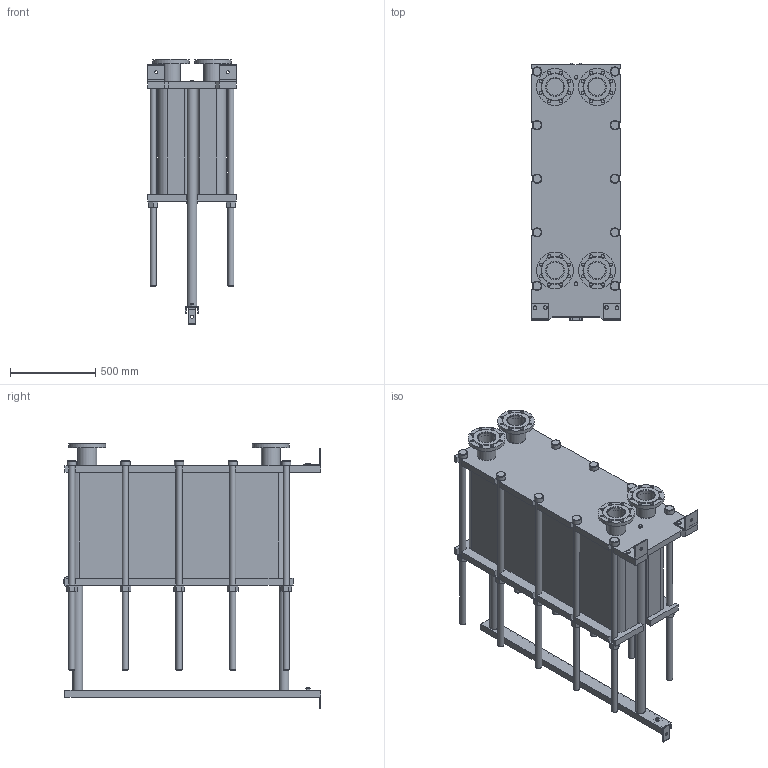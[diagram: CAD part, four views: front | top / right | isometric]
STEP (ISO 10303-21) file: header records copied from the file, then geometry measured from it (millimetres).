
FILE_DESCRIPTION(/* description */ (''),/* implementation_level */ '2;1');
FILE_NAME(/* name */ 'C:\Users\zhuro\Desktop\ENCO\TO\ЭН-04\ЭН-0,5-04-180-1.stp',/* time_stamp */ '2022-06-06T11:00:46+03:00',/* author */ ('zhuro'),/* organization */ (''),/* preprocessor_version */ 'ST-DEVELOPER v18.1',/* originating_system */ 'Autodesk Inventor 2022',/* authorisation */ '');
FILE_SCHEMA (('AUTOMOTIVE_DESIGN { 1 0 10303 214 3 1 1 }'));
Length unit declared in the file: millimetre
Products named in the file (1): ЭН-0,5-04-180-1
Bounding box: 520 x 1510 x 1555 mm (x, y, z)
Volume: 385860894.6 mm3; surface area: 10114469.5 mm2
Topology: 45 solids, 45 shells, 668 faces, 1611 edges, 1048 vertices
Faces by surface type: plane 457, cylinder 166, cone 39, torus 6
Full cylindrical faces by diameter (mm): 8 x4, 10 x2, 16 x8, 18 x35, 36 x25, 40 x2, 42 x1, 45 x4, 54 x10, 57 x2, 60 x10, 68 x2, 100 x4, 110 x8, 215 x4
Entity records: 23607 total; most frequent: CARTESIAN_POINT 7348, DIRECTION 3371, ORIENTED_EDGE 3142, EDGE_CURVE 1571, AXIS2_PLACEMENT_3D 1199, VERTEX_POINT 1044, LINE 973, VECTOR 973
